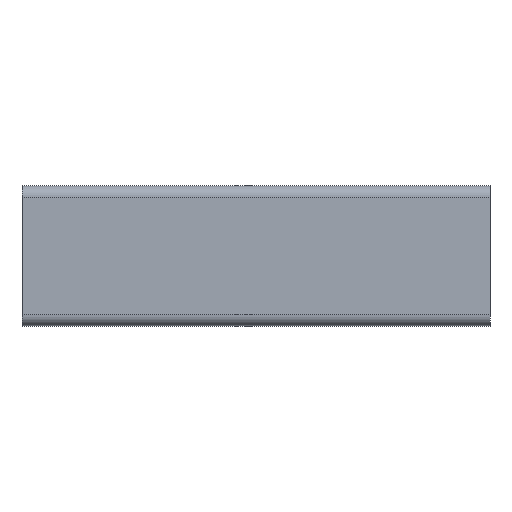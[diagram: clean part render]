
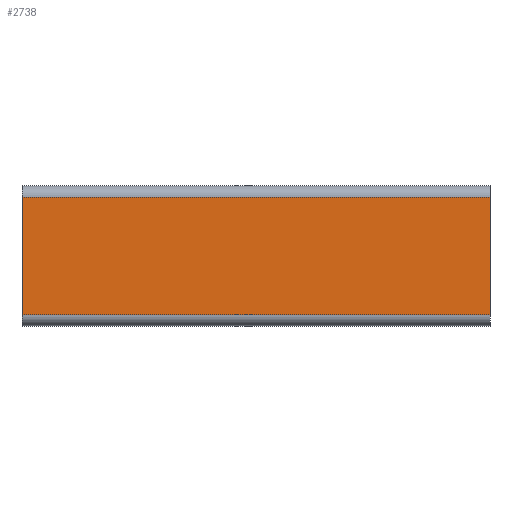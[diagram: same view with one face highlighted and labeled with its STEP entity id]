
A CAD part, front view. The second image highlights one B-rep face of the part: STEP entity #2738.
In plain terms, the highlighted planar face has unit normal (0, -1, 0).
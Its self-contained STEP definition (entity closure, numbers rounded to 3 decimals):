
#35 = VERTEX_POINT ( 'NONE', #3389 ) ;
#39 = EDGE_LOOP ( 'NONE', ( #1017, #3599, #711, #1660 ) ) ;
#79 = LINE ( 'NONE', #2826, #637 ) ;
#88 = CARTESIAN_POINT ( 'NONE',  ( 0., -14.977, 12.882 ) ) ;
#187 = CARTESIAN_POINT ( 'NONE',  ( 100., -14.977, -12.118 ) ) ;
#302 = DIRECTION ( 'NONE',  ( 0., 0., 1. ) ) ;
#637 = VECTOR ( 'NONE', #2496, 1000. ) ;
#711 = ORIENTED_EDGE ( 'NONE', *, *, #3603, .F. ) ;
#831 = VERTEX_POINT ( 'NONE', #88 ) ;
#939 = VERTEX_POINT ( 'NONE', #2081 ) ;
#1017 = ORIENTED_EDGE ( 'NONE', *, *, #4118, .T. ) ;
#1141 = VECTOR ( 'NONE', #1254, 1000. ) ;
#1254 = DIRECTION ( 'NONE',  ( 0., 0., -1. ) ) ;
#1288 = DIRECTION ( 'NONE',  ( -1., 0., 0. ) ) ;
#1381 = CARTESIAN_POINT ( 'NONE',  ( 100., -14.977, -12.118 ) ) ;
#1402 = FACE_OUTER_BOUND ( 'NONE', #39, .T. ) ;
#1594 = DIRECTION ( 'NONE',  ( 0., 1., 0. ) ) ;
#1660 = ORIENTED_EDGE ( 'NONE', *, *, #2920, .T. ) ;
#1682 = EDGE_CURVE ( 'NONE', #3965, #939, #79, .T. ) ;
#1837 = DIRECTION ( 'NONE',  ( 0., 0., -1. ) ) ;
#2081 = CARTESIAN_POINT ( 'NONE',  ( 0., -14.977, -12.118 ) ) ;
#2325 = LINE ( 'NONE', #3322, #3931 ) ;
#2496 = DIRECTION ( 'NONE',  ( -1., 0., 0. ) ) ;
#2713 = LINE ( 'NONE', #3554, #3711 ) ;
#2738 = ADVANCED_FACE ( 'NONE', ( #1402 ), #3730, .F. ) ;
#2826 = CARTESIAN_POINT ( 'NONE',  ( 100., -14.977, -12.118 ) ) ;
#2873 = LINE ( 'NONE', #4106, #1141 ) ;
#2907 = AXIS2_PLACEMENT_3D ( 'NONE', #187, #1594, #302 ) ;
#2920 = EDGE_CURVE ( 'NONE', #35, #831, #2713, .T. ) ;
#3322 = CARTESIAN_POINT ( 'NONE',  ( 0., -14.977, -12.118 ) ) ;
#3389 = CARTESIAN_POINT ( 'NONE',  ( 100., -14.977, 12.882 ) ) ;
#3554 = CARTESIAN_POINT ( 'NONE',  ( 100., -14.977, 12.882 ) ) ;
#3599 = ORIENTED_EDGE ( 'NONE', *, *, #1682, .F. ) ;
#3603 = EDGE_CURVE ( 'NONE', #35, #3965, #2873, .T. ) ;
#3711 = VECTOR ( 'NONE', #1288, 1000. ) ;
#3730 = PLANE ( 'NONE',  #2907 ) ;
#3931 = VECTOR ( 'NONE', #1837, 1000. ) ;
#3965 = VERTEX_POINT ( 'NONE', #1381 ) ;
#4106 = CARTESIAN_POINT ( 'NONE',  ( 100., -14.977, -12.118 ) ) ;
#4118 = EDGE_CURVE ( 'NONE', #831, #939, #2325, .T. ) ;
